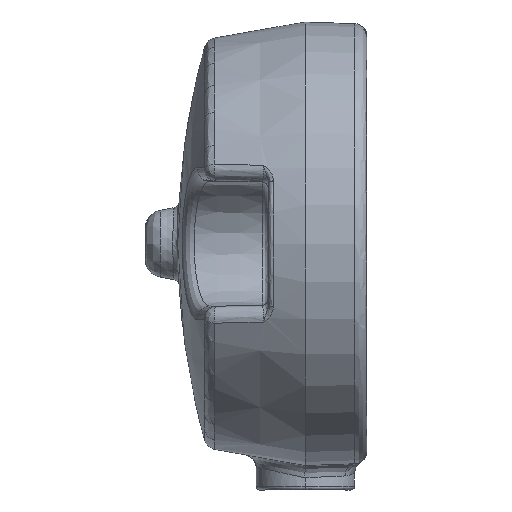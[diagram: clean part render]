
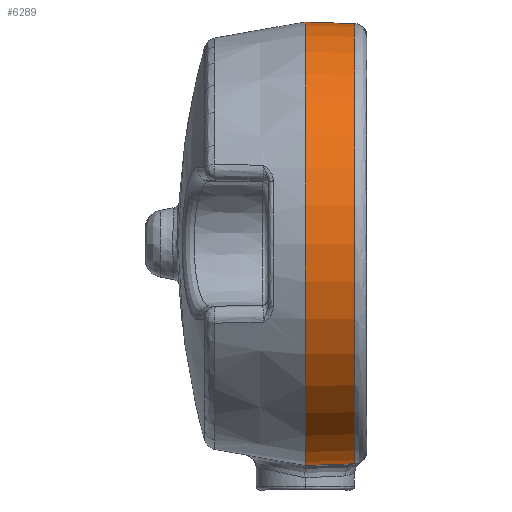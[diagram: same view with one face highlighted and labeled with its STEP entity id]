
A CAD part, left-side view. The second image highlights one B-rep face of the part: STEP entity #6289.
In plain terms, the highlighted conical face has half-angle 2 degrees and reference radius 18 mm.
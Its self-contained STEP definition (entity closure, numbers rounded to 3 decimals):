
#686 = CARTESIAN_POINT ( 'NONE',  ( -20., 0., 0. ) ) ;
#688 = DIRECTION ( 'NONE',  ( 0., 0., 1. ) ) ;
#689 = DIRECTION ( 'NONE',  ( 0., 1., 0. ) ) ;
#2418 = EDGE_LOOP ( 'NONE', ( #3100, #2671, #2672, #2673 ) ) ;
#2540 = EDGE_CURVE ( 'NONE', #12929, #12844, #11259, .T. ) ;
#2557 = AXIS2_PLACEMENT_3D ( 'NONE', #6669, #6667, #6666 ) ;
#2671 = ORIENTED_EDGE ( 'NONE', *, *, #2540, .T. ) ;
#2672 = ORIENTED_EDGE ( 'NONE', *, *, #11572, .F. ) ;
#2673 = ORIENTED_EDGE ( 'NONE', *, *, #11571, .F. ) ;
#3100 = ORIENTED_EDGE ( 'NONE', *, *, #11570, .T. ) ;
#6024 = VERTEX_POINT ( 'NONE', #7779 ) ;
#6040 = VERTEX_POINT ( 'NONE', #7767 ) ;
#6102 = LINE ( 'NONE', #9811, #6112 ) ;
#6112 = VECTOR ( 'NONE', #9812, 1000. ) ;
#6122 = LINE ( 'NONE', #9806, #6123 ) ;
#6123 = VECTOR ( 'NONE', #9807, 1000. ) ;
#6125 = CIRCLE ( 'NONE', #6933, 17.859 ) ;
#6289 = ADVANCED_FACE ( 'NONE', ( #6446 ), #6453, .T. ) ;
#6446 = FACE_OUTER_BOUND ( 'NONE', #2418, .T. ) ;
#6453 = CONICAL_SURFACE ( 'NONE', #10060, 18., 0.035 ) ;
#6666 = DIRECTION ( 'NONE',  ( 0., 0., -1. ) ) ;
#6667 = DIRECTION ( 'NONE',  ( 0., -1., 0. ) ) ;
#6669 = CARTESIAN_POINT ( 'NONE',  ( -20., 0., 0. ) ) ;
#6933 = AXIS2_PLACEMENT_3D ( 'NONE', #9791, #9809, #9810 ) ;
#7767 = CARTESIAN_POINT ( 'NONE',  ( -20., -4.035, 17.859 ) ) ;
#7779 = CARTESIAN_POINT ( 'NONE',  ( -20., -4.035, -17.859 ) ) ;
#8141 = CARTESIAN_POINT ( 'NONE',  ( -20., 0., -18. ) ) ;
#8226 = CARTESIAN_POINT ( 'NONE',  ( -20., 0., 18. ) ) ;
#9791 = CARTESIAN_POINT ( 'NONE',  ( -20., -4.035, 0. ) ) ;
#9806 = CARTESIAN_POINT ( 'NONE',  ( -20., 0., 18. ) ) ;
#9807 = DIRECTION ( 'NONE',  ( 0., 0.999, 0.035 ) ) ;
#9809 = DIRECTION ( 'NONE',  ( 0., -1., 0. ) ) ;
#9810 = DIRECTION ( 'NONE',  ( 0., 0., -1. ) ) ;
#9811 = CARTESIAN_POINT ( 'NONE',  ( -20., 0., -18. ) ) ;
#9812 = DIRECTION ( 'NONE',  ( 0., 0.999, -0.035 ) ) ;
#10060 = AXIS2_PLACEMENT_3D ( 'NONE', #686, #689, #688 ) ;
#11259 = CIRCLE ( 'NONE', #2557, 18. ) ;
#11570 = EDGE_CURVE ( 'NONE', #6040, #12929, #6122, .T. ) ;
#11571 = EDGE_CURVE ( 'NONE', #6040, #6024, #6125, .T. ) ;
#11572 = EDGE_CURVE ( 'NONE', #6024, #12844, #6102, .T. ) ;
#12844 = VERTEX_POINT ( 'NONE', #8141 ) ;
#12929 = VERTEX_POINT ( 'NONE', #8226 ) ;
